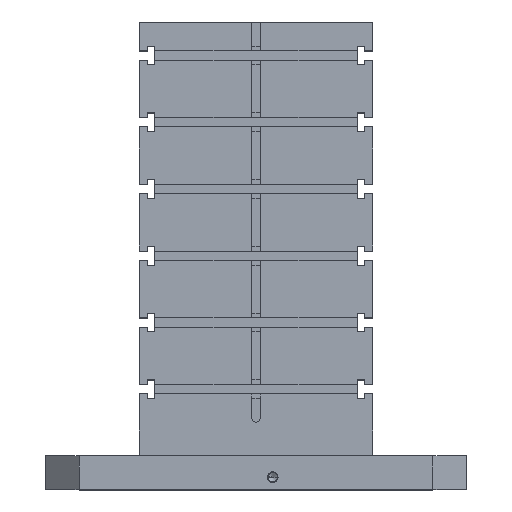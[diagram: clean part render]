
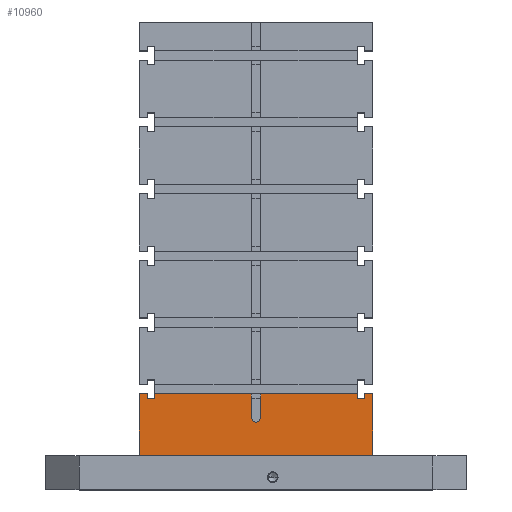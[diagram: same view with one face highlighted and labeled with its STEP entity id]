
A CAD part, top view. The second image highlights one B-rep face of the part: STEP entity #10960.
In plain terms, the highlighted planar face has unit normal (0, 0, 1).
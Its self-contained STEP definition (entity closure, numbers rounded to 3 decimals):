
#157=CARTESIAN_POINT('',(2.,84.,175.));
#158=DIRECTION('',(0.,0.,-1.));
#159=DIRECTION('',(-0.222,-0.975,0.));
#160=AXIS2_PLACEMENT_3D('',#157,#158,#159);
#162=CARTESIAN_POINT('',(-2.,84.,175.));
#163=DIRECTION('',(0.,0.,1.));
#164=DIRECTION('',(0.222,-0.975,0.));
#165=AXIS2_PLACEMENT_3D('',#162,#163,#164);
#167=DIRECTION('',(0.,1.,0.));
#168=VECTOR('',#167,34.);
#169=CARTESIAN_POINT('',(7.,84.,175.));
#170=LINE('',#169,#168);
#171=DIRECTION('',(1.,0.,0.));
#172=VECTOR('',#171,145.);
#173=CARTESIAN_POINT('',(7.,118.,175.));
#174=LINE('',#173,#172);
#175=DIRECTION('',(0.,1.,0.));
#176=VECTOR('',#175,7.);
#177=CARTESIAN_POINT('',(152.,111.,175.));
#178=LINE('',#177,#176);
#179=DIRECTION('',(-1.,0.,0.));
#180=VECTOR('',#179,11.);
#181=CARTESIAN_POINT('',(163.,111.,175.));
#182=LINE('',#181,#180);
#183=DIRECTION('',(0.,-1.,0.));
#184=VECTOR('',#183,7.);
#185=CARTESIAN_POINT('',(163.,118.,175.));
#186=LINE('',#185,#184);
#187=DIRECTION('',(-1.,0.,0.));
#188=VECTOR('',#187,12.);
#189=CARTESIAN_POINT('',(175.,118.,175.));
#190=LINE('',#189,#188);
#191=DIRECTION('',(0.,1.,0.));
#192=VECTOR('',#191,93.);
#193=CARTESIAN_POINT('',(-175.,25.,175.));
#194=LINE('',#193,#192);
#195=DIRECTION('',(1.,0.,0.));
#196=VECTOR('',#195,12.);
#197=CARTESIAN_POINT('',(-175.,118.,175.));
#198=LINE('',#197,#196);
#199=DIRECTION('',(0.,-1.,0.));
#200=VECTOR('',#199,7.);
#201=CARTESIAN_POINT('',(-163.,118.,175.));
#202=LINE('',#201,#200);
#203=DIRECTION('',(1.,0.,0.));
#204=VECTOR('',#203,11.);
#205=CARTESIAN_POINT('',(-163.,111.,175.));
#206=LINE('',#205,#204);
#207=DIRECTION('',(0.,1.,0.));
#208=VECTOR('',#207,7.);
#209=CARTESIAN_POINT('',(-152.,111.,175.));
#210=LINE('',#209,#208);
#211=DIRECTION('',(1.,0.,0.));
#212=VECTOR('',#211,145.);
#213=CARTESIAN_POINT('',(-152.,118.,175.));
#214=LINE('',#213,#212);
#215=DIRECTION('',(0.,1.,0.));
#216=VECTOR('',#215,34.);
#217=CARTESIAN_POINT('',(-7.,84.,175.));
#218=LINE('',#217,#216);
#2375=DIRECTION('',(0.,1.,0.));
#2376=VECTOR('',#2375,93.);
#2377=CARTESIAN_POINT('',(175.,25.,175.));
#2378=LINE('',#2377,#2376);
#6065=DIRECTION('',(1.,0.,0.));
#6066=VECTOR('',#6065,350.);
#6067=CARTESIAN_POINT('',(-175.,25.,175.));
#6068=LINE('',#6067,#6066);
#7913=CARTESIAN_POINT('',(-175.,25.,175.));
#7914=CARTESIAN_POINT('',(175.,25.,175.));
#7915=VERTEX_POINT('',#7913);
#7916=VERTEX_POINT('',#7914);
#8115=CARTESIAN_POINT('',(175.,118.,175.));
#8116=CARTESIAN_POINT('',(163.,118.,175.));
#8117=VERTEX_POINT('',#8115);
#8118=VERTEX_POINT('',#8116);
#8119=CARTESIAN_POINT('',(163.,111.,175.));
#8120=VERTEX_POINT('',#8119);
#8121=CARTESIAN_POINT('',(152.,111.,175.));
#8122=VERTEX_POINT('',#8121);
#8407=CARTESIAN_POINT('',(-163.,111.,175.));
#8409=VERTEX_POINT('',#8407);
#8411=CARTESIAN_POINT('',(-152.,111.,175.));
#8413=VERTEX_POINT('',#8411);
#8655=CARTESIAN_POINT('',(-175.,118.,175.));
#8657=VERTEX_POINT('',#8655);
#8675=CARTESIAN_POINT('',(152.,118.,175.));
#8677=VERTEX_POINT('',#8675);
#8937=CARTESIAN_POINT('',(-163.,118.,175.));
#8938=VERTEX_POINT('',#8937);
#8939=CARTESIAN_POINT('',(-152.,118.,175.));
#8940=VERTEX_POINT('',#8939);
#10059=CARTESIAN_POINT('',(-7.,84.,175.));
#10060=VERTEX_POINT('',#10059);
#10111=CARTESIAN_POINT('',(-7.,118.,175.));
#10112=VERTEX_POINT('',#10111);
#10113=CARTESIAN_POINT('',(7.,118.,175.));
#10114=VERTEX_POINT('',#10113);
#10115=CARTESIAN_POINT('',(0.,75.225,175.));
#10116=VERTEX_POINT('',#10115);
#10117=CARTESIAN_POINT('',(7.,84.,175.));
#10118=VERTEX_POINT('',#10117);
#10924=CARTESIAN_POINT('',(-175.,25.,175.));
#10925=DIRECTION('',(0.,0.,1.));
#10926=DIRECTION('',(1.,0.,0.));
#10927=AXIS2_PLACEMENT_3D('',#10924,#10925,#10926);
#10928=PLANE('',#10927);
#10930=ORIENTED_EDGE('',*,*,#10929,.F.);
#10932=ORIENTED_EDGE('',*,*,#10931,.T.);
#10933=ORIENTED_EDGE('',*,*,#10671,.T.);
#10934=ORIENTED_EDGE('',*,*,#10790,.T.);
#10936=ORIENTED_EDGE('',*,*,#10935,.F.);
#10938=ORIENTED_EDGE('',*,*,#10937,.F.);
#10940=ORIENTED_EDGE('',*,*,#10939,.F.);
#10942=ORIENTED_EDGE('',*,*,#10941,.F.);
#10944=ORIENTED_EDGE('',*,*,#10943,.F.);
#10946=ORIENTED_EDGE('',*,*,#10945,.F.);
#10948=ORIENTED_EDGE('',*,*,#10947,.T.);
#10949=ORIENTED_EDGE('',*,*,#10805,.T.);
#10951=ORIENTED_EDGE('',*,*,#10950,.T.);
#10953=ORIENTED_EDGE('',*,*,#10952,.T.);
#10955=ORIENTED_EDGE('',*,*,#10954,.T.);
#10956=ORIENTED_EDGE('',*,*,#10782,.T.);
#10957=ORIENTED_EDGE('',*,*,#10819,.F.);
#10958=EDGE_LOOP('',(#10930,#10932,#10933,#10934,#10936,#10938,#10940,#10942,
#10944,#10946,#10948,#10949,#10951,#10953,#10955,#10956,#10957));
#10959=FACE_OUTER_BOUND('',#10958,.F.);
#10960=ADVANCED_FACE('',(#10959),#10928,.T.);
#161=CIRCLE('',#160,9.);
#166=CIRCLE('',#165,9.);
#10671=EDGE_CURVE('',#10118,#10114,#170,.T.);
#10782=EDGE_CURVE('',#8940,#10112,#214,.T.);
#10790=EDGE_CURVE('',#10114,#8677,#174,.T.);
#10805=EDGE_CURVE('',#8657,#8938,#198,.T.);
#10819=EDGE_CURVE('',#10060,#10112,#218,.T.);
#10929=EDGE_CURVE('',#10116,#10060,#161,.T.);
#10931=EDGE_CURVE('',#10116,#10118,#166,.T.);
#10935=EDGE_CURVE('',#8122,#8677,#178,.T.);
#10937=EDGE_CURVE('',#8120,#8122,#182,.T.);
#10939=EDGE_CURVE('',#8118,#8120,#186,.T.);
#10941=EDGE_CURVE('',#8117,#8118,#190,.T.);
#10943=EDGE_CURVE('',#7916,#8117,#2378,.T.);
#10945=EDGE_CURVE('',#7915,#7916,#6068,.T.);
#10947=EDGE_CURVE('',#7915,#8657,#194,.T.);
#10950=EDGE_CURVE('',#8938,#8409,#202,.T.);
#10952=EDGE_CURVE('',#8409,#8413,#206,.T.);
#10954=EDGE_CURVE('',#8413,#8940,#210,.T.);
